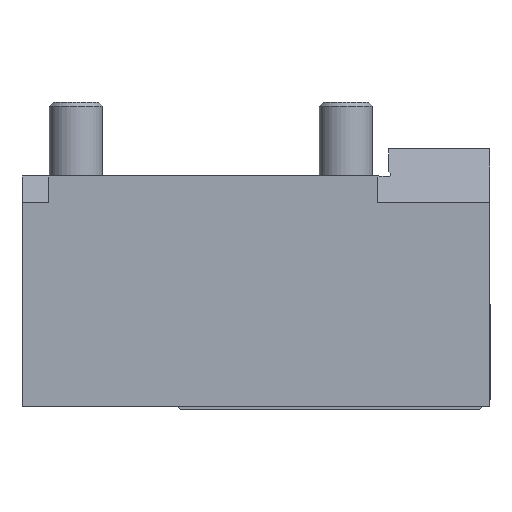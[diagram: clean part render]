
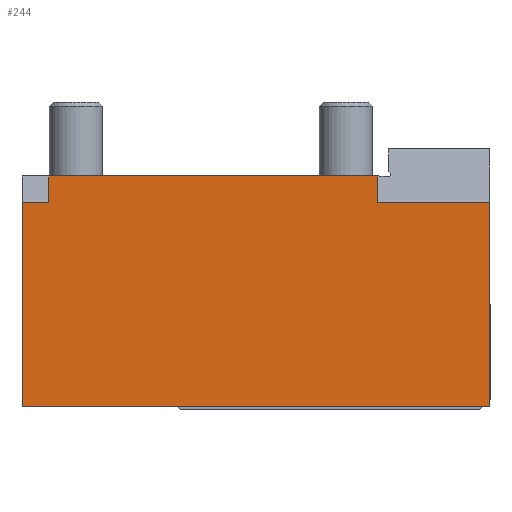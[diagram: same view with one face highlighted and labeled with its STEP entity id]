
A CAD part, front view. The second image highlights one B-rep face of the part: STEP entity #244.
In plain terms, the highlighted planar face has unit normal (0, -1, 0).
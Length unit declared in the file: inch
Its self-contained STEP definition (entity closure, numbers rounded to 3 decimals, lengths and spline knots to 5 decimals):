
#6 = CARTESIAN_POINT ( 'NONE',  ( 0., -1.77165, 0.01 ) ) ;
#59 = EDGE_CURVE ( 'NONE', #5500, #5467, #247, .T. ) ;
#120 = ORIENTED_EDGE ( 'NONE', *, *, #3863, .F. ) ;
#139 = ORIENTED_EDGE ( 'NONE', *, *, #5105, .T. ) ;
#143 = VERTEX_POINT ( 'NONE', #4657 ) ;
#224 = CARTESIAN_POINT ( 'NONE',  ( 0.74803, -1.77165, -1.7 ) ) ;
#244 = ADVANCED_FACE ( 'NONE', ( #5519 ), #1067, .T. ) ;
#247 = LINE ( 'NONE', #2839, #4095 ) ;
#286 = DIRECTION ( 'NONE',  ( 0., 0., 1. ) ) ;
#440 = LINE ( 'NONE', #5174, #3691 ) ;
#988 = LINE ( 'NONE', #2874, #1433 ) ;
#1067 = PLANE ( 'NONE',  #4441 ) ;
#1190 = CARTESIAN_POINT ( 'NONE',  ( -2.70197, -1.77165, -0.1937 ) ) ;
#1192 = CARTESIAN_POINT ( 'NONE',  ( 0.74803, -1.77165, -1.7 ) ) ;
#1342 = DIRECTION ( 'NONE',  ( -1., 0., 0. ) ) ;
#1433 = VECTOR ( 'NONE', #286, 39.37008 ) ;
#1445 = ORIENTED_EDGE ( 'NONE', *, *, #4739, .T. ) ;
#1520 = VECTOR ( 'NONE', #5033, 39.37008 ) ;
#1635 = LINE ( 'NONE', #3599, #2379 ) ;
#1671 = VERTEX_POINT ( 'NONE', #4145 ) ;
#1742 = CARTESIAN_POINT ( 'NONE',  ( -0.07874, -1.77165, -0.1937 ) ) ;
#1801 = EDGE_CURVE ( 'NONE', #2144, #3638, #2638, .T. ) ;
#2003 = VERTEX_POINT ( 'NONE', #1742 ) ;
#2080 = ORIENTED_EDGE ( 'NONE', *, *, #59, .T. ) ;
#2129 = LINE ( 'NONE', #1192, #1520 ) ;
#2144 = VERTEX_POINT ( 'NONE', #4936 ) ;
#2146 = DIRECTION ( 'NONE',  ( -1., 0., 0. ) ) ;
#2379 = VECTOR ( 'NONE', #3184, 39.37008 ) ;
#2458 = LINE ( 'NONE', #2494, #3573 ) ;
#2494 = CARTESIAN_POINT ( 'NONE',  ( -0.07874, -1.77165, -0.1937 ) ) ;
#2612 = CARTESIAN_POINT ( 'NONE',  ( 0.74803, -1.77165, -0.1937 ) ) ;
#2627 = CARTESIAN_POINT ( 'NONE',  ( -2.50512, -1.77165, -0.1937 ) ) ;
#2638 = LINE ( 'NONE', #2627, #5301 ) ;
#2804 = DIRECTION ( 'NONE',  ( 1., 0., 0. ) ) ;
#2839 = CARTESIAN_POINT ( 'NONE',  ( -2.70197, -1.77165, -1.7 ) ) ;
#2844 = EDGE_CURVE ( 'NONE', #2003, #1671, #988, .T. ) ;
#2874 = CARTESIAN_POINT ( 'NONE',  ( -0.07874, -1.77165, 0.01 ) ) ;
#2916 = LINE ( 'NONE', #4799, #3965 ) ;
#2946 = EDGE_CURVE ( 'NONE', #2003, #3788, #2458, .T. ) ;
#3143 = EDGE_CURVE ( 'NONE', #3638, #5500, #1635, .T. ) ;
#3184 = DIRECTION ( 'NONE',  ( 0., 0., -1. ) ) ;
#3544 = CARTESIAN_POINT ( 'NONE',  ( -2.70197, -1.77165, -1.7 ) ) ;
#3573 = VECTOR ( 'NONE', #5046, 39.37008 ) ;
#3599 = CARTESIAN_POINT ( 'NONE',  ( -2.70197, -1.77165, 0. ) ) ;
#3638 = VERTEX_POINT ( 'NONE', #1190 ) ;
#3691 = VECTOR ( 'NONE', #2146, 39.37008 ) ;
#3765 = ORIENTED_EDGE ( 'NONE', *, *, #2946, .F. ) ;
#3788 = VERTEX_POINT ( 'NONE', #2612 ) ;
#3863 = EDGE_CURVE ( 'NONE', #2144, #143, #2916, .T. ) ;
#3900 = DIRECTION ( 'NONE',  ( 0., 0., 1. ) ) ;
#3965 = VECTOR ( 'NONE', #3900, 39.37008 ) ;
#4095 = VECTOR ( 'NONE', #2804, 39.37008 ) ;
#4145 = CARTESIAN_POINT ( 'NONE',  ( -0.07874, -1.77165, 0. ) ) ;
#4213 = DIRECTION ( 'NONE',  ( 0., -1., 0. ) ) ;
#4441 = AXIS2_PLACEMENT_3D ( 'NONE', #6, #4213, #5081 ) ;
#4657 = CARTESIAN_POINT ( 'NONE',  ( -2.50512, -1.77165, 0. ) ) ;
#4739 = EDGE_CURVE ( 'NONE', #1671, #143, #440, .T. ) ;
#4799 = CARTESIAN_POINT ( 'NONE',  ( -2.50512, -1.77165, -0.1937 ) ) ;
#4936 = CARTESIAN_POINT ( 'NONE',  ( -2.50512, -1.77165, -0.1937 ) ) ;
#4975 = ORIENTED_EDGE ( 'NONE', *, *, #3143, .T. ) ;
#4986 = ORIENTED_EDGE ( 'NONE', *, *, #1801, .T. ) ;
#5033 = DIRECTION ( 'NONE',  ( 0., 0., 1. ) ) ;
#5046 = DIRECTION ( 'NONE',  ( 1., 0., 0. ) ) ;
#5057 = EDGE_LOOP ( 'NONE', ( #4986, #4975, #2080, #139, #3765, #5242, #1445, #120 ) ) ;
#5081 = DIRECTION ( 'NONE',  ( -1., 0., 0. ) ) ;
#5105 = EDGE_CURVE ( 'NONE', #5467, #3788, #2129, .T. ) ;
#5174 = CARTESIAN_POINT ( 'NONE',  ( -0.07203, -1.77165, 0. ) ) ;
#5242 = ORIENTED_EDGE ( 'NONE', *, *, #2844, .T. ) ;
#5301 = VECTOR ( 'NONE', #1342, 39.37008 ) ;
#5467 = VERTEX_POINT ( 'NONE', #224 ) ;
#5500 = VERTEX_POINT ( 'NONE', #3544 ) ;
#5519 = FACE_OUTER_BOUND ( 'NONE', #5057, .T. ) ;
